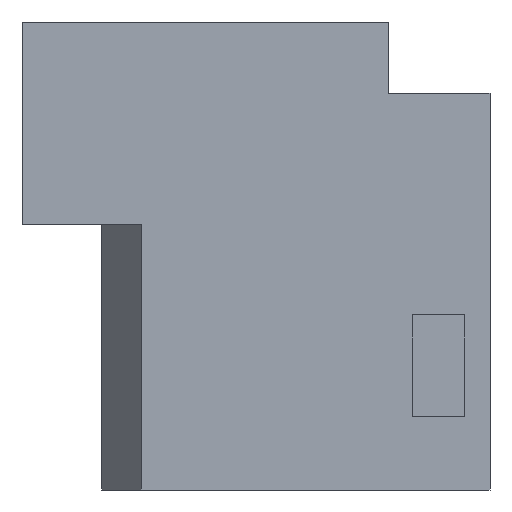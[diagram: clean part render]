
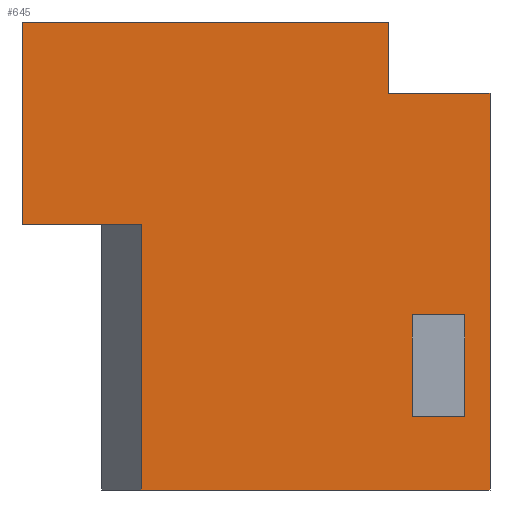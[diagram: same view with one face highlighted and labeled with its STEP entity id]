
A CAD part, left-side view. The second image highlights one B-rep face of the part: STEP entity #645.
In plain terms, the highlighted planar face has unit normal (-1, 0, 0).
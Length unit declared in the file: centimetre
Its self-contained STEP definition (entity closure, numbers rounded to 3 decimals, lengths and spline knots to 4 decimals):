
#32 = LINE ( 'NONE', #962, #1156 ) ;
#35 = EDGE_CURVE ( 'NONE', #380, #997, #148, .T. ) ;
#42 = AXIS2_PLACEMENT_3D ( 'NONE', #43, #1071, #1088 ) ;
#43 = CARTESIAN_POINT ( 'NONE',  ( 0., 1000., 1000. ) ) ;
#50 = LINE ( 'NONE', #329, #181 ) ;
#57 = DIRECTION ( 'NONE',  ( 0., 1., 0. ) ) ;
#62 = CARTESIAN_POINT ( 'NONE',  ( 0., 744.9779, 567.2734 ) ) ;
#73 = CARTESIAN_POINT ( 'NONE',  ( 0., 0., 1000. ) ) ;
#79 = CARTESIAN_POINT ( 'NONE',  ( 0., 166.5563, 374.1215 ) ) ;
#81 = VECTOR ( 'NONE', #406, 100. ) ;
#85 = VECTOR ( 'NONE', #466, 100. ) ;
#105 = EDGE_CURVE ( 'NONE', #380, #881, #175, .T. ) ;
#131 = CARTESIAN_POINT ( 'NONE',  ( 0., 53.9613, 374.1215 ) ) ;
#148 = LINE ( 'NONE', #911, #1166 ) ;
#151 = VERTEX_POINT ( 'NONE', #79 ) ;
#175 = LINE ( 'NONE', #73, #192 ) ;
#176 = ORIENTED_EDGE ( 'NONE', *, *, #105, .F. ) ;
#181 = VECTOR ( 'NONE', #1089, 100. ) ;
#189 = LINE ( 'NONE', #455, #85 ) ;
#192 = VECTOR ( 'NONE', #274, 100. ) ;
#196 = VERTEX_POINT ( 'NONE', #789 ) ;
#197 = LINE ( 'NONE', #1183, #940 ) ;
#198 = LINE ( 'NONE', #578, #614 ) ;
#203 = CARTESIAN_POINT ( 'NONE',  ( 0., 744.9779, 567.2734 ) ) ;
#218 = DIRECTION ( 'NONE',  ( 0., -1., 0. ) ) ;
#266 = VERTEX_POINT ( 'NONE', #1073 ) ;
#274 = DIRECTION ( 'NONE',  ( 0., 0., -1. ) ) ;
#304 = CARTESIAN_POINT ( 'NONE',  ( 0., 1000., 567.2734 ) ) ;
#310 = DIRECTION ( 'NONE',  ( 0., 1., 0. ) ) ;
#322 = FACE_OUTER_BOUND ( 'NONE', #584, .T. ) ;
#329 = CARTESIAN_POINT ( 'NONE',  ( 0., 216.3773, 847.2879 ) ) ;
#335 = CARTESIAN_POINT ( 'NONE',  ( 0., 1000., 1000. ) ) ;
#348 = ORIENTED_EDGE ( 'NONE', *, *, #910, .T. ) ;
#352 = ORIENTED_EDGE ( 'NONE', *, *, #804, .F. ) ;
#380 = VERTEX_POINT ( 'NONE', #810 ) ;
#406 = DIRECTION ( 'NONE',  ( 0., 1., 0. ) ) ;
#431 = LINE ( 'NONE', #335, #700 ) ;
#455 = CARTESIAN_POINT ( 'NONE',  ( 0., 1000., 1000. ) ) ;
#466 = DIRECTION ( 'NONE',  ( 0., 0., -1. ) ) ;
#469 = ORIENTED_EDGE ( 'NONE', *, *, #1051, .T. ) ;
#470 = DIRECTION ( 'NONE',  ( 0., -1., 0. ) ) ;
#495 = ORIENTED_EDGE ( 'NONE', *, *, #969, .F. ) ;
#560 = EDGE_LOOP ( 'NONE', ( #1164, #779, #1158, #664 ) ) ;
#561 = EDGE_CURVE ( 'NONE', #858, #266, #1047, .T. ) ;
#564 = CARTESIAN_POINT ( 'NONE',  ( 0., 166.5563, 157.4466 ) ) ;
#578 = CARTESIAN_POINT ( 'NONE',  ( 0., 53.9613, 374.1215 ) ) ;
#584 = EDGE_LOOP ( 'NONE', ( #495, #469, #747, #176, #855, #1181, #352, #348 ) ) ;
#606 = VERTEX_POINT ( 'NONE', #861 ) ;
#614 = VECTOR ( 'NONE', #310, 100. ) ;
#619 = DIRECTION ( 'NONE',  ( 0., -1., 0. ) ) ;
#645 = ADVANCED_FACE ( 'NONE', ( #770, #322 ), #704, .F. ) ;
#647 = EDGE_CURVE ( 'NONE', #266, #754, #976, .T. ) ;
#664 = ORIENTED_EDGE ( 'NONE', *, *, #1037, .F. ) ;
#667 = EDGE_CURVE ( 'NONE', #196, #881, #197, .T. ) ;
#668 = CARTESIAN_POINT ( 'NONE',  ( 0., 216.3773, 847.2879 ) ) ;
#671 = CARTESIAN_POINT ( 'NONE',  ( 0., 53.9613, 157.4466 ) ) ;
#678 = DIRECTION ( 'NONE',  ( 0., 0., -1. ) ) ;
#700 = VECTOR ( 'NONE', #619, 100. ) ;
#704 = PLANE ( 'NONE',  #42 ) ;
#745 = VECTOR ( 'NONE', #470, 100. ) ;
#747 = ORIENTED_EDGE ( 'NONE', *, *, #667, .T. ) ;
#754 = VERTEX_POINT ( 'NONE', #131 ) ;
#764 = VECTOR ( 'NONE', #909, 100. ) ;
#770 = FACE_BOUND ( 'NONE', #560, .T. ) ;
#779 = ORIENTED_EDGE ( 'NONE', *, *, #561, .F. ) ;
#782 = CARTESIAN_POINT ( 'NONE',  ( 0., 216.3773, 1000. ) ) ;
#789 = CARTESIAN_POINT ( 'NONE',  ( 0., 744.9779, 0. ) ) ;
#804 = EDGE_CURVE ( 'NONE', #606, #1032, #431, .T. ) ;
#810 = CARTESIAN_POINT ( 'NONE',  ( 0., 0., 847.2879 ) ) ;
#839 = VERTEX_POINT ( 'NONE', #62 ) ;
#844 = CARTESIAN_POINT ( 'NONE',  ( 0., 53.9613, 157.4466 ) ) ;
#855 = ORIENTED_EDGE ( 'NONE', *, *, #35, .T. ) ;
#858 = VERTEX_POINT ( 'NONE', #564 ) ;
#861 = CARTESIAN_POINT ( 'NONE',  ( 0., 1000., 1000. ) ) ;
#881 = VERTEX_POINT ( 'NONE', #1045 ) ;
#909 = DIRECTION ( 'NONE',  ( 0., 0., -1. ) ) ;
#910 = EDGE_CURVE ( 'NONE', #606, #1090, #189, .T. ) ;
#911 = CARTESIAN_POINT ( 'NONE',  ( 0., 0., 847.2879 ) ) ;
#919 = VECTOR ( 'NONE', #990, 100. ) ;
#931 = LINE ( 'NONE', #203, #81 ) ;
#940 = VECTOR ( 'NONE', #218, 100. ) ;
#962 = CARTESIAN_POINT ( 'NONE',  ( 0., 744.9779, 567.2734 ) ) ;
#969 = EDGE_CURVE ( 'NONE', #839, #1090, #931, .T. ) ;
#976 = LINE ( 'NONE', #671, #919 ) ;
#990 = DIRECTION ( 'NONE',  ( 0., 0., 1. ) ) ;
#997 = VERTEX_POINT ( 'NONE', #668 ) ;
#1032 = VERTEX_POINT ( 'NONE', #782 ) ;
#1037 = EDGE_CURVE ( 'NONE', #754, #151, #198, .T. ) ;
#1045 = CARTESIAN_POINT ( 'NONE',  ( 0., 0., 0. ) ) ;
#1047 = LINE ( 'NONE', #844, #745 ) ;
#1051 = EDGE_CURVE ( 'NONE', #839, #196, #32, .T. ) ;
#1071 = DIRECTION ( 'NONE',  ( 1., 0., 0. ) ) ;
#1073 = CARTESIAN_POINT ( 'NONE',  ( 0., 53.9613, 157.4466 ) ) ;
#1079 = LINE ( 'NONE', #1204, #764 ) ;
#1088 = DIRECTION ( 'NONE',  ( 0., 0., -1. ) ) ;
#1089 = DIRECTION ( 'NONE',  ( 0., 0., 1. ) ) ;
#1090 = VERTEX_POINT ( 'NONE', #304 ) ;
#1140 = EDGE_CURVE ( 'NONE', #151, #858, #1079, .T. ) ;
#1156 = VECTOR ( 'NONE', #678, 100. ) ;
#1158 = ORIENTED_EDGE ( 'NONE', *, *, #1140, .F. ) ;
#1164 = ORIENTED_EDGE ( 'NONE', *, *, #647, .F. ) ;
#1166 = VECTOR ( 'NONE', #57, 100. ) ;
#1181 = ORIENTED_EDGE ( 'NONE', *, *, #1229, .T. ) ;
#1183 = CARTESIAN_POINT ( 'NONE',  ( 0., 1000., 0. ) ) ;
#1204 = CARTESIAN_POINT ( 'NONE',  ( 0., 166.5563, 157.4466 ) ) ;
#1229 = EDGE_CURVE ( 'NONE', #997, #1032, #50, .T. ) ;
